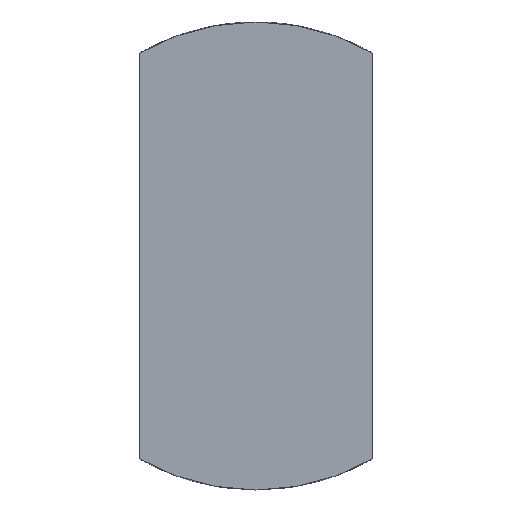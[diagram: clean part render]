
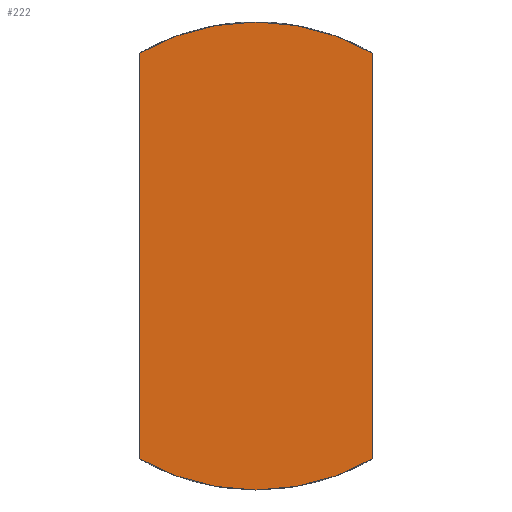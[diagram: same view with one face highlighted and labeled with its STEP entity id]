
A CAD part, front view. The second image highlights one B-rep face of the part: STEP entity #222.
In plain terms, the highlighted planar face has unit normal (0, -1, 0).
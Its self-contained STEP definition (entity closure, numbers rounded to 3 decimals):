
#48 = AXIS2_PLACEMENT_3D ( 'NONE', #2042, #975, #635 ) ;
#53 = CARTESIAN_POINT ( 'NONE',  ( -10., 0., -17.321 ) ) ;
#60 = EDGE_CURVE ( 'NONE', #1550, #82, #1526, .T. ) ;
#82 = VERTEX_POINT ( 'NONE', #158 ) ;
#143 = ORIENTED_EDGE ( 'NONE', *, *, #1246, .T. ) ;
#158 = CARTESIAN_POINT ( 'NONE',  ( 0., 0., -20. ) ) ;
#222 = ADVANCED_FACE ( 'NONE', ( #1336 ), #2240, .T. ) ;
#288 = LINE ( 'NONE', #1523, #1111 ) ;
#340 = CARTESIAN_POINT ( 'NONE',  ( 10., 0., -17.321 ) ) ;
#449 = EDGE_LOOP ( 'NONE', ( #1193, #2235, #143, #805, #1864 ) ) ;
#471 = CIRCLE ( 'NONE', #883, 20. ) ;
#479 = CARTESIAN_POINT ( 'NONE',  ( 0., 0., 0. ) ) ;
#635 = DIRECTION ( 'NONE',  ( 0., 0., -1. ) ) ;
#805 = ORIENTED_EDGE ( 'NONE', *, *, #1277, .T. ) ;
#830 = CARTESIAN_POINT ( 'NONE',  ( 0., 0., 0. ) ) ;
#883 = AXIS2_PLACEMENT_3D ( 'NONE', #1853, #1641, #967 ) ;
#944 = VERTEX_POINT ( 'NONE', #1099 ) ;
#958 = DIRECTION ( 'NONE',  ( 0., 0., -1. ) ) ;
#967 = DIRECTION ( 'NONE',  ( 0., 0., -1. ) ) ;
#975 = DIRECTION ( 'NONE',  ( 0., -1., 0. ) ) ;
#1099 = CARTESIAN_POINT ( 'NONE',  ( 10., 0., 17.321 ) ) ;
#1111 = VECTOR ( 'NONE', #2243, 1000. ) ;
#1150 = VERTEX_POINT ( 'NONE', #340 ) ;
#1193 = ORIENTED_EDGE ( 'NONE', *, *, #1387, .F. ) ;
#1246 = EDGE_CURVE ( 'NONE', #82, #1150, #471, .T. ) ;
#1277 = EDGE_CURVE ( 'NONE', #1150, #944, #1843, .T. ) ;
#1317 = CARTESIAN_POINT ( 'NONE',  ( 10., 0., -20. ) ) ;
#1326 = CARTESIAN_POINT ( 'NONE',  ( -10., 0., 17.321 ) ) ;
#1336 = FACE_OUTER_BOUND ( 'NONE', #449, .T. ) ;
#1384 = DIRECTION ( 'NONE',  ( 0., -1., 0. ) ) ;
#1387 = EDGE_CURVE ( 'NONE', #1550, #1596, #288, .T. ) ;
#1523 = CARTESIAN_POINT ( 'NONE',  ( -10., 0., -20. ) ) ;
#1526 = CIRCLE ( 'NONE', #2208, 20. ) ;
#1550 = VERTEX_POINT ( 'NONE', #53 ) ;
#1566 = CIRCLE ( 'NONE', #2176, 20. ) ;
#1596 = VERTEX_POINT ( 'NONE', #1326 ) ;
#1641 = DIRECTION ( 'NONE',  ( 0., -1., 0. ) ) ;
#1667 = DIRECTION ( 'NONE',  ( 0., 0., 1. ) ) ;
#1805 = DIRECTION ( 'NONE',  ( 0., 0., -1. ) ) ;
#1843 = LINE ( 'NONE', #1317, #1977 ) ;
#1853 = CARTESIAN_POINT ( 'NONE',  ( 0., 0., 0. ) ) ;
#1864 = ORIENTED_EDGE ( 'NONE', *, *, #2143, .T. ) ;
#1977 = VECTOR ( 'NONE', #1667, 1000. ) ;
#2042 = CARTESIAN_POINT ( 'NONE',  ( 0., 0., 0. ) ) ;
#2143 = EDGE_CURVE ( 'NONE', #944, #1596, #1566, .T. ) ;
#2176 = AXIS2_PLACEMENT_3D ( 'NONE', #479, #2237, #958 ) ;
#2208 = AXIS2_PLACEMENT_3D ( 'NONE', #830, #1384, #1805 ) ;
#2235 = ORIENTED_EDGE ( 'NONE', *, *, #60, .T. ) ;
#2237 = DIRECTION ( 'NONE',  ( 0., -1., 0. ) ) ;
#2240 = PLANE ( 'NONE',  #48 ) ;
#2243 = DIRECTION ( 'NONE',  ( 0., 0., 1. ) ) ;
